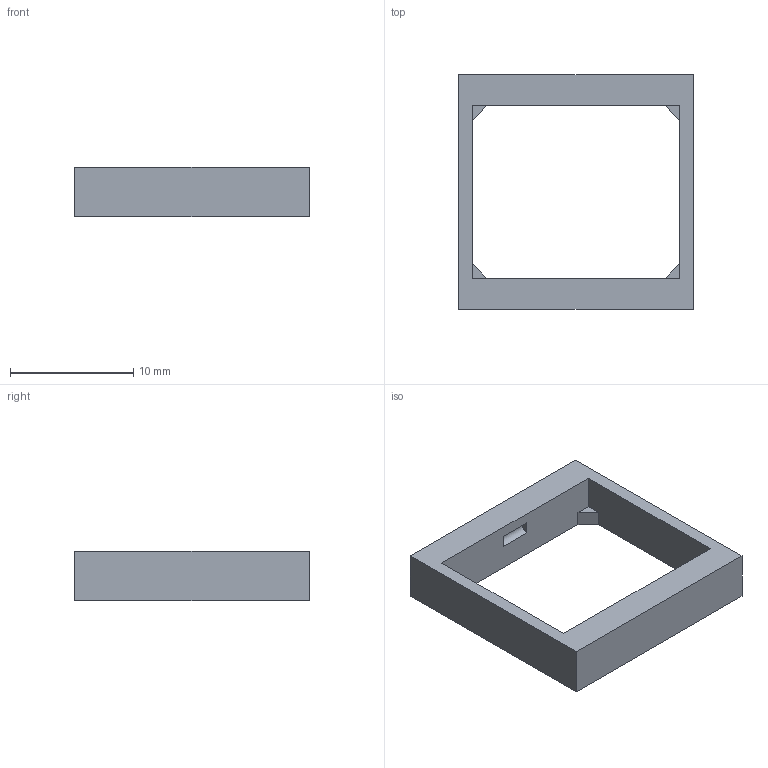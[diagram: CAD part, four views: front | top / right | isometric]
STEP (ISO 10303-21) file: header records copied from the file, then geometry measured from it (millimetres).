
FILE_DESCRIPTION(('Open CASCADE Model'),'2;1');
FILE_NAME('Open CASCADE Shape Model','2026-05-31T19:44:11',('Author'),( 'Open CASCADE'),'Open CASCADE STEP processor 7.6','Open CASCADE 7.6' ,'Unknown');
FILE_SCHEMA(('AP242_MANAGED_MODEL_BASED_3D_ENGINEERING_MIM_LF. {1 0 10303 442 1 1 4 }'));
Length unit declared in the file: millimetre
Products named in the file (1): Open CASCADE STEP translator 7.6 5
Bounding box: 19.05 x 19.05 x 4 mm (x, y, z)
Volume: 509.6 mm3; surface area: 811.9 mm2
Topology: 1 solids, 1 shells, 24 faces, 60 edges, 40 vertices
Faces by surface type: plane 22, cylinder 2
Entity records: 1502 total; most frequent: CARTESIAN_POINT 245, DIRECTION 234, LINE 172, VECTOR 172, ORIENTED_EDGE 120, PCURVE 120, DEFINITIONAL_REPRESENTATION 120, EDGE_CURVE 60
